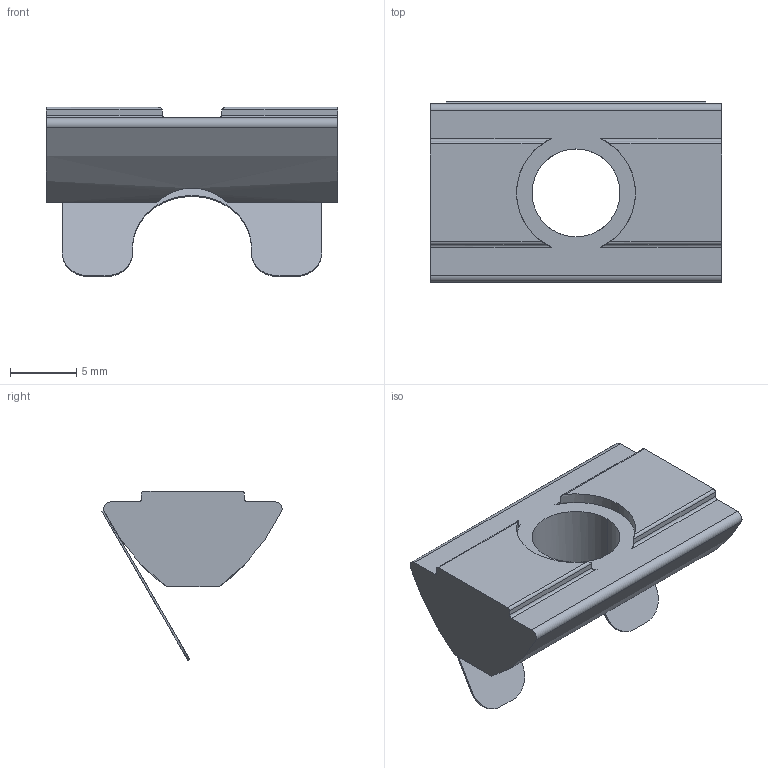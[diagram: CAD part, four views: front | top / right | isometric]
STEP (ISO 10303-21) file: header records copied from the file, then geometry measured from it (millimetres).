
FILE_DESCRIPTION (( 'STEP AP203' ), '1' );
FILE_NAME ('0108NSM8STF.STEP', '2024-03-05T13:30:53', ( 'Windows-Benutzer' ), ( '' ), 'SwSTEP 2.0', 'SolidWorks 2023', '' );
FILE_SCHEMA (( 'CONFIG_CONTROL_DESIGN' ));
Length unit declared in the file: millimetre
Products named in the file (1): 0108NSM8STF
Bounding box: 22 x 13.63 x 12.8 mm (x, y, z)
Volume: 1297.5 mm3; surface area: 1275.4 mm2
Topology: 1 solids, 1 shells, 44 faces, 129 edges, 86 vertices
Faces by surface type: cylinder 23, plane 21
Entity records: 1636 total; most frequent: CARTESIAN_POINT 358, ORIENTED_EDGE 258, DIRECTION 253, EDGE_CURVE 129, AXIS2_PLACEMENT_3D 89, VERTEX_POINT 86, LINE 75, VECTOR 75
